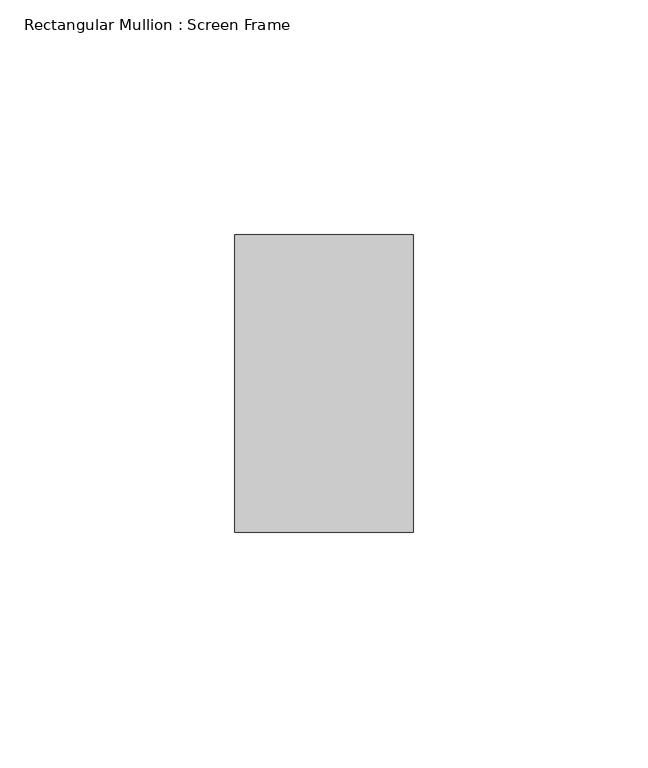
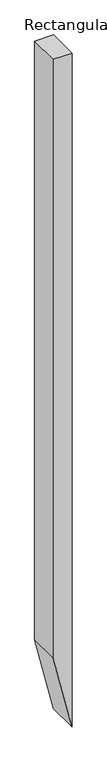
"""IFC4 building model written with IfcOpenShell, lengths in millimetres: member geometry, Rectangular Mullion : Screen Frame."""

from ifc_helpers import new_model, si_unit, frame, origin, place, context, project, spatial, polyline, outline, extrude, source, transform, mapped, element, save


def rectangular_mullion_screen_frame_79ea2501(model_context):
    return source(origin(), model_context, "Body", "SweptSolid", [
        extrude(outline(polyline([(0.0, 0.0), (0.0, -38.1), (-1263.924688, -38.1), (-1422.9588, 0.0), (0.0, 0.0)])), frame((0.0, -31.75, 0.0), z_axis=(0.0, 1.0, 0.0), x_axis=(0.0, 0.0, 1.0)), (0.0, 0.0, 1.0), 63.5),
    ])


if __name__ == "__main__":
    model = new_model("IFC4")
    model_context = context("Model", 3, world=origin())
    ifc_project = project(units=[si_unit("LENGTHUNIT", "METRE", prefix="MILLI")], contexts=[model_context])
    site = spatial("IfcSite", under=ifc_project)
    building = spatial("IfcBuilding", under=site)
    placement = place(None, origin())
    rectangular_mullion_screen_frame_shape = rectangular_mullion_screen_frame_79ea2501(model_context)
    element("IfcMember", 1, ObjectType="Rectangular Mullion : Screen Frame", at=placement, inside=building, context=model_context, shape_type="MappedRepresentation", body=[
        mapped(rectangular_mullion_screen_frame_shape, transform((0.0, 0.0, 0.0), x_axis=(1.0, 0.0, 0.0), y_axis=(0.0, 1.0, 0.0), z_axis=(0.0, 0.0, 1.0))),
    ])
    save(model, "model.ifc")
